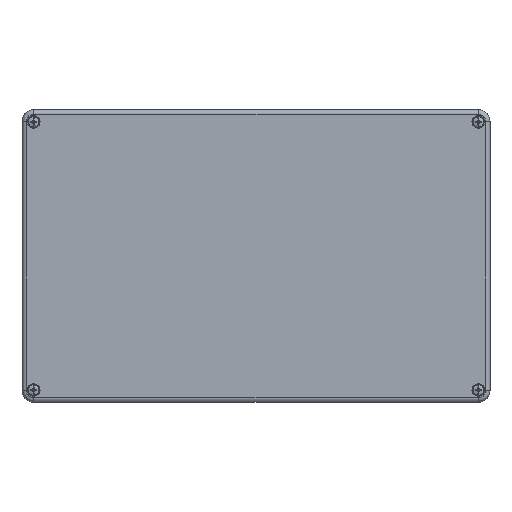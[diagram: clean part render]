
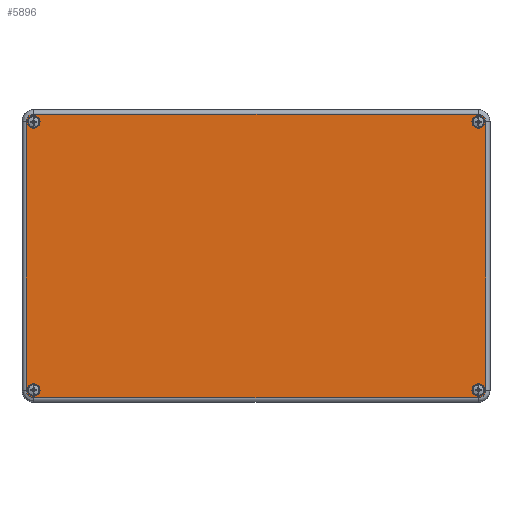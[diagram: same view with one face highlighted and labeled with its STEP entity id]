
A CAD part, top view. The second image highlights one B-rep face of the part: STEP entity #5896.
In plain terms, the highlighted planar face has unit normal (0, 0, 1).
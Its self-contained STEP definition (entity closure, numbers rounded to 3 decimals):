
#85=ELLIPSE('',#6498,6.5,6.5);
#87=ELLIPSE('',#6503,6.5,6.5);
#89=ELLIPSE('',#6509,6.5,6.5);
#91=ELLIPSE('',#6514,6.5,6.5);
#199=FACE_BOUND('',#2226,.T.);
#200=FACE_BOUND('',#2227,.T.);
#201=FACE_BOUND('',#2228,.T.);
#202=FACE_BOUND('',#2229,.T.);
#407=PLANE('',#6522);
#907=LINE('',#10108,#1361);
#913=LINE('',#10203,#1367);
#915=LINE('',#10206,#1369);
#917=LINE('',#10209,#1371);
#1361=VECTOR('',#8137,229.621);
#1367=VECTOR('',#8165,379.621);
#1369=VECTOR('',#8169,229.621);
#1371=VECTOR('',#8173,379.621);
#1776=FACE_OUTER_BOUND('',#2225,.T.);
#2225=EDGE_LOOP('',(#5341,#5342,#5343,#5344,#5345,#5346,#5347,#5348));
#2226=EDGE_LOOP('',(#5349));
#2227=EDGE_LOOP('',(#5350));
#2228=EDGE_LOOP('',(#5351));
#2229=EDGE_LOOP('',(#5352));
#2506=CIRCLE('',#6381,5.4);
#2509=CIRCLE('',#6387,5.4);
#2512=CIRCLE('',#6393,5.4);
#2515=CIRCLE('',#6399,5.4);
#2987=VERTEX_POINT('',#9726);
#2990=VERTEX_POINT('',#9735);
#2993=VERTEX_POINT('',#9744);
#2996=VERTEX_POINT('',#9753);
#3086=VERTEX_POINT('',#10050);
#3088=VERTEX_POINT('',#10054);
#3090=VERTEX_POINT('',#10096);
#3092=VERTEX_POINT('',#10100);
#3094=VERTEX_POINT('',#10145);
#3096=VERTEX_POINT('',#10149);
#3098=VERTEX_POINT('',#10191);
#3100=VERTEX_POINT('',#10195);
#3702=EDGE_CURVE('',#2987,#2987,#2506,.T.);
#3705=EDGE_CURVE('',#2990,#2990,#2509,.T.);
#3708=EDGE_CURVE('',#2993,#2993,#2512,.T.);
#3711=EDGE_CURVE('',#2996,#2996,#2515,.T.);
#3843=EDGE_CURVE('',#3088,#3086,#85,.T.);
#3849=EDGE_CURVE('',#3092,#3090,#87,.T.);
#3853=EDGE_CURVE('',#3086,#3092,#907,.T.);
#3857=EDGE_CURVE('',#3096,#3094,#89,.T.);
#3863=EDGE_CURVE('',#3100,#3098,#91,.T.);
#3867=EDGE_CURVE('',#3090,#3100,#913,.T.);
#3869=EDGE_CURVE('',#3098,#3096,#915,.T.);
#3871=EDGE_CURVE('',#3094,#3088,#917,.T.);
#5341=ORIENTED_EDGE('',*,*,#3863,.F.);
#5342=ORIENTED_EDGE('',*,*,#3867,.F.);
#5343=ORIENTED_EDGE('',*,*,#3849,.F.);
#5344=ORIENTED_EDGE('',*,*,#3853,.F.);
#5345=ORIENTED_EDGE('',*,*,#3843,.F.);
#5346=ORIENTED_EDGE('',*,*,#3871,.F.);
#5347=ORIENTED_EDGE('',*,*,#3857,.F.);
#5348=ORIENTED_EDGE('',*,*,#3869,.F.);
#5349=ORIENTED_EDGE('',*,*,#3702,.T.);
#5350=ORIENTED_EDGE('',*,*,#3705,.T.);
#5351=ORIENTED_EDGE('',*,*,#3708,.T.);
#5352=ORIENTED_EDGE('',*,*,#3711,.T.);
#5896=ADVANCED_FACE('',(#1776,#199,#200,#201,#202),#407,.T.);
#6381=AXIS2_PLACEMENT_3D('',#9727,#7806,#7807);
#6387=AXIS2_PLACEMENT_3D('',#9736,#7818,#7819);
#6393=AXIS2_PLACEMENT_3D('',#9745,#7830,#7831);
#6399=AXIS2_PLACEMENT_3D('',#9754,#7842,#7843);
#6498=AXIS2_PLACEMENT_3D('',#10056,#8116,#8117);
#6503=AXIS2_PLACEMENT_3D('',#10102,#8128,#8129);
#6509=AXIS2_PLACEMENT_3D('',#10151,#8144,#8145);
#6514=AXIS2_PLACEMENT_3D('',#10197,#8156,#8157);
#6522=AXIS2_PLACEMENT_3D('',#10213,#8180,#8181);
#7806=DIRECTION('center_axis',(0.,0.,-1.));
#7807=DIRECTION('ref_axis',(1.,0.,0.));
#7818=DIRECTION('center_axis',(0.,0.,-1.));
#7819=DIRECTION('ref_axis',(1.,0.,0.));
#7830=DIRECTION('center_axis',(0.,0.,-1.));
#7831=DIRECTION('ref_axis',(1.,0.,0.));
#7842=DIRECTION('center_axis',(0.,0.,-1.));
#7843=DIRECTION('ref_axis',(1.,0.,0.));
#8116=DIRECTION('center_axis',(0.,0.,-1.));
#8117=DIRECTION('ref_axis',(-0.707,-0.707,0.));
#8128=DIRECTION('center_axis',(0.,0.,-1.));
#8129=DIRECTION('ref_axis',(-0.707,0.707,0.));
#8137=DIRECTION('',(0.,1.,0.));
#8144=DIRECTION('center_axis',(0.,0.,-1.));
#8145=DIRECTION('ref_axis',(0.707,-0.707,0.));
#8156=DIRECTION('center_axis',(0.,0.,-1.));
#8157=DIRECTION('ref_axis',(0.707,0.707,0.));
#8165=DIRECTION('',(1.,0.,0.));
#8169=DIRECTION('',(0.,-1.,0.));
#8173=DIRECTION('',(-1.,0.,0.));
#8180=DIRECTION('center_axis',(0.,0.,1.));
#8181=DIRECTION('ref_axis',(1.,0.,0.));
#9726=CARTESIAN_POINT('',(-184.6,-114.6,25.25));
#9727=CARTESIAN_POINT('Origin',(-190.,-114.6,25.25));
#9735=CARTESIAN_POINT('',(195.4,-114.6,25.25));
#9736=CARTESIAN_POINT('Origin',(190.,-114.6,25.25));
#9744=CARTESIAN_POINT('',(195.4,114.6,25.25));
#9745=CARTESIAN_POINT('Origin',(190.,114.6,25.25));
#9753=CARTESIAN_POINT('',(-184.6,114.6,25.25));
#9754=CARTESIAN_POINT('Origin',(-190.,114.6,25.25));
#10050=CARTESIAN_POINT('',(-196.31,-114.81,25.25));
#10054=CARTESIAN_POINT('',(-189.81,-121.31,25.25));
#10056=CARTESIAN_POINT('Origin',(-189.81,-114.81,25.25));
#10096=CARTESIAN_POINT('',(-189.81,121.31,25.25));
#10100=CARTESIAN_POINT('',(-196.31,114.81,25.25));
#10102=CARTESIAN_POINT('Origin',(-189.81,114.81,25.25));
#10108=CARTESIAN_POINT('',(-196.31,-62.5,25.25));
#10145=CARTESIAN_POINT('',(189.81,-121.31,25.25));
#10149=CARTESIAN_POINT('',(196.31,-114.81,25.25));
#10151=CARTESIAN_POINT('Origin',(189.81,-114.81,25.25));
#10191=CARTESIAN_POINT('',(196.31,114.81,25.25));
#10195=CARTESIAN_POINT('',(189.81,121.31,25.25));
#10197=CARTESIAN_POINT('Origin',(189.81,114.81,25.25));
#10203=CARTESIAN_POINT('',(-100.,121.31,25.25));
#10206=CARTESIAN_POINT('',(196.31,62.5,25.25));
#10209=CARTESIAN_POINT('',(100.,-121.31,25.25));
#10213=CARTESIAN_POINT('Origin',(0.,0.,
25.25));
